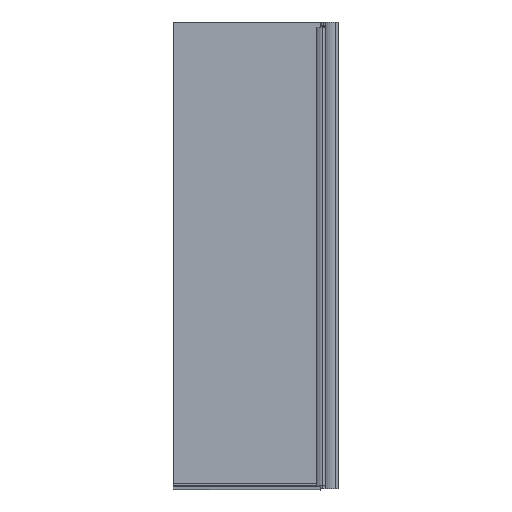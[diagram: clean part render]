
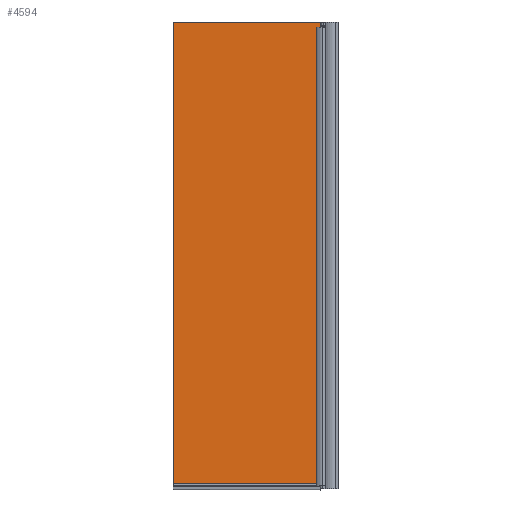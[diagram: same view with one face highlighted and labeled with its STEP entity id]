
A CAD part, front view. The second image highlights one B-rep face of the part: STEP entity #4594.
In plain terms, the highlighted planar face has unit normal (0, -1, 0).
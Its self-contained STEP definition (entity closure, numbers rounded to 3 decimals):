
#501=FACE_OUTER_BOUND($,#739,.T.);
#739=EDGE_LOOP($,(#3967,#3968,#3969,#3970,#3971,#3972));
#828=LINE($,#6513,#1288);
#978=LINE($,#6995,#1438);
#1033=LINE($,#7127,#1493);
#1196=LINE($,#7580,#1656);
#1199=LINE($,#7588,#1659);
#1200=LINE($,#7589,#1660);
#1288=VECTOR($,#5198,14.774);
#1438=VECTOR($,#5588,585.226);
#1493=VECTOR($,#5709,1877.038);
#1656=VECTOR($,#6218,1856.038);
#1659=VECTOR($,#6229,21.);
#1660=VECTOR($,#6230,600.);
#1756=VERTEX_POINT($,#6510);
#1757=VERTEX_POINT($,#6512);
#1924=VERTEX_POINT($,#6993);
#1925=VERTEX_POINT($,#6994);
#1969=VERTEX_POINT($,#7126);
#2087=VERTEX_POINT($,#7587);
#2202=EDGE_CURVE($,#1756,#1757,#828,.T.);
#2426=EDGE_CURVE($,#1924,#1925,#978,.T.);
#2493=EDGE_CURVE($,#1925,#1969,#1033,.T.);
#2721=EDGE_CURVE($,#1924,#1757,#1196,.T.);
#2724=EDGE_CURVE($,#1756,#2087,#1199,.T.);
#2725=EDGE_CURVE($,#2087,#1969,#1200,.T.);
#3967=ORIENTED_EDGE($,*,*,#2426,.F.);
#3968=ORIENTED_EDGE($,*,*,#2721,.T.);
#3969=ORIENTED_EDGE($,*,*,#2202,.F.);
#3970=ORIENTED_EDGE($,*,*,#2724,.T.);
#3971=ORIENTED_EDGE($,*,*,#2725,.T.);
#3972=ORIENTED_EDGE($,*,*,#2493,.F.);
#4153=PLANE($,#4990);
#4594=ADVANCED_FACE($,(#501),#4153,.F.);
#4990=AXIS2_PLACEMENT_3D($,#7586,#6227,#6228);
#5198=DIRECTION($,(-1.,0.,0.));
#5588=DIRECTION($,(-1.,0.,0.));
#5709=DIRECTION($,(0.,0.,1.));
#6218=DIRECTION($,(0.,0.,1.));
#6227=DIRECTION('center_axis',(0.,1.,0.));
#6228=DIRECTION('ref_axis',(-1.,0.,0.));
#6229=DIRECTION($,(0.,0.,1.));
#6230=DIRECTION($,(-1.,0.,0.));
#6510=CARTESIAN_POINT('',(507.686,11.606,1363.944));
#6512=CARTESIAN_POINT('',(492.912,11.606,1363.944));
#6513=CARTESIAN_POINT($,(508.899,11.606,1363.944));
#6993=CARTESIAN_POINT('',(492.912,11.606,-492.093));
#6994=CARTESIAN_POINT('',(-92.314,11.606,-492.093));
#6995=CARTESIAN_POINT($,(507.686,11.606,-492.093));
#7126=CARTESIAN_POINT('',(-92.314,11.606,1384.944));
#7127=CARTESIAN_POINT($,(-92.314,11.606,-502.056));
#7580=CARTESIAN_POINT($,(492.912,11.606,-501.056));
#7586=CARTESIAN_POINT('Origin',(507.686,11.606,-502.056));
#7587=CARTESIAN_POINT('',(507.686,11.606,1384.944));
#7588=CARTESIAN_POINT($,(507.686,11.606,-502.056));
#7589=CARTESIAN_POINT($,(507.686,11.606,1384.944));
